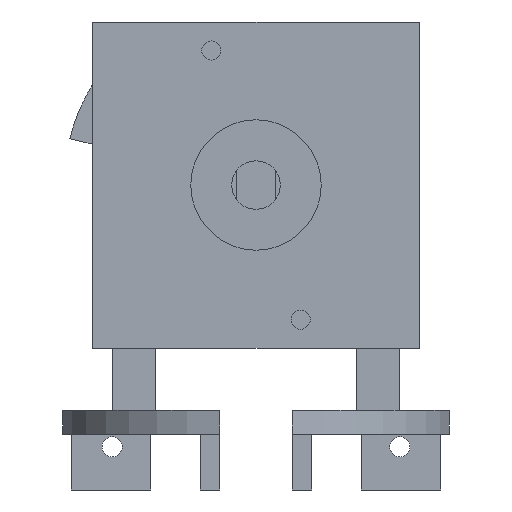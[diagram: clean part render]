
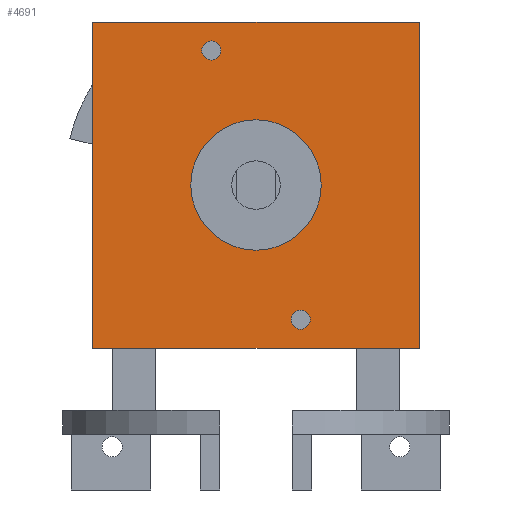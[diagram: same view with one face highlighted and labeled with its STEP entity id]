
A CAD part, front view. The second image highlights one B-rep face of the part: STEP entity #4691.
In plain terms, the highlighted planar face has unit normal (0, -1, 0).
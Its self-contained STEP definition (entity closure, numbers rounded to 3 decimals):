
#325 = PLANE('',#326);
#326 = AXIS2_PLACEMENT_3D('',#327,#328,#329);
#327 = CARTESIAN_POINT('',(-34.,-47.5,-34.));
#328 = DIRECTION('',(0.,0.,1.));
#329 = DIRECTION('',(1.,0.,0.));
#353 = PLANE('',#354);
#354 = AXIS2_PLACEMENT_3D('',#355,#356,#357);
#355 = CARTESIAN_POINT('',(-34.,-47.5,-34.));
#356 = DIRECTION('',(1.,0.,0.));
#357 = DIRECTION('',(0.,0.,1.));
#381 = PLANE('',#382);
#382 = AXIS2_PLACEMENT_3D('',#383,#384,#385);
#383 = CARTESIAN_POINT('',(-34.,-47.5,34.));
#384 = DIRECTION('',(0.,0.,1.));
#385 = DIRECTION('',(1.,0.,0.));
#407 = PLANE('',#408);
#408 = AXIS2_PLACEMENT_3D('',#409,#410,#411);
#409 = CARTESIAN_POINT('',(34.,-47.5,-34.));
#410 = DIRECTION('',(1.,0.,0.));
#411 = DIRECTION('',(0.,0.,1.));
#442 = CYLINDRICAL_SURFACE('',#443,13.6);
#443 = AXIS2_PLACEMENT_3D('',#444,#445,#446);
#444 = CARTESIAN_POINT('',(0.,-48.5,0.));
#445 = DIRECTION('',(0.,-1.,-0.));
#446 = DIRECTION('',(1.,0.,0.));
#4636 = EDGE_CURVE('',#4637,#4637,#4639,.T.);
#4637 = VERTEX_POINT('',#4638);
#4638 = CARTESIAN_POINT('',(13.6,-47.5,0.));
#4639 = SURFACE_CURVE('',#4640,(#4645,#4652),.PCURVE_S1.);
#4640 = CIRCLE('',#4641,13.6);
#4641 = AXIS2_PLACEMENT_3D('',#4642,#4643,#4644);
#4642 = CARTESIAN_POINT('',(0.,-47.5,0.));
#4643 = DIRECTION('',(0.,-1.,-0.));
#4644 = DIRECTION('',(1.,0.,0.));
#4645 = PCURVE('',#442,#4646);
#4646 = DEFINITIONAL_REPRESENTATION('',(#4647),#4651);
#4647 = LINE('',#4648,#4649);
#4648 = CARTESIAN_POINT('',(-6.283,-1.));
#4649 = VECTOR('',#4650,1.);
#4650 = DIRECTION('',(1.,-0.));
#4651 = ( GEOMETRIC_REPRESENTATION_CONTEXT(2) 
PARAMETRIC_REPRESENTATION_CONTEXT() REPRESENTATION_CONTEXT('2D SPACE',''
  ) );
#4652 = PCURVE('',#4653,#4658);
#4653 = PLANE('',#4654);
#4654 = AXIS2_PLACEMENT_3D('',#4655,#4656,#4657);
#4655 = CARTESIAN_POINT('',(-34.,-47.5,-34.));
#4656 = DIRECTION('',(0.,1.,0.));
#4657 = DIRECTION('',(0.,0.,1.));
#4658 = DEFINITIONAL_REPRESENTATION('',(#4659),#4667);
#4659 = ( BOUNDED_CURVE() B_SPLINE_CURVE(2,(#4660,#4661,#4662,#4663,
#4664,#4665,#4666),.UNSPECIFIED.,.T.,.F.) B_SPLINE_CURVE_WITH_KNOTS((1,2
    ,2,2,2,1),(-2.094,0.,2.094,4.189,
6.283,8.378),.UNSPECIFIED.) CURVE() 
GEOMETRIC_REPRESENTATION_ITEM() RATIONAL_B_SPLINE_CURVE((1.,0.5,1.,0.5,
1.,0.5,1.)) REPRESENTATION_ITEM('') );
#4660 = CARTESIAN_POINT('',(34.,47.6));
#4661 = CARTESIAN_POINT('',(57.556,47.6));
#4662 = CARTESIAN_POINT('',(45.778,27.2));
#4663 = CARTESIAN_POINT('',(34.,6.8));
#4664 = CARTESIAN_POINT('',(22.222,27.2));
#4665 = CARTESIAN_POINT('',(10.444,47.6));
#4666 = CARTESIAN_POINT('',(34.,47.6));
#4667 = ( GEOMETRIC_REPRESENTATION_CONTEXT(2) 
PARAMETRIC_REPRESENTATION_CONTEXT() REPRESENTATION_CONTEXT('2D SPACE',''
  ) );
#4691 = ADVANCED_FACE('',(#4692,#4786,#4821,#4856),#4653,.F.);
#4692 = FACE_BOUND('',#4693,.F.);
#4693 = EDGE_LOOP('',(#4694,#4719,#4742,#4765));
#4694 = ORIENTED_EDGE('',*,*,#4695,.F.);
#4695 = EDGE_CURVE('',#4696,#4698,#4700,.T.);
#4696 = VERTEX_POINT('',#4697);
#4697 = CARTESIAN_POINT('',(-34.,-47.5,-34.));
#4698 = VERTEX_POINT('',#4699);
#4699 = CARTESIAN_POINT('',(34.,-47.5,-34.));
#4700 = SURFACE_CURVE('',#4701,(#4705,#4712),.PCURVE_S1.);
#4701 = LINE('',#4702,#4703);
#4702 = CARTESIAN_POINT('',(-34.,-47.5,-34.));
#4703 = VECTOR('',#4704,1.);
#4704 = DIRECTION('',(1.,0.,0.));
#4705 = PCURVE('',#4653,#4706);
#4706 = DEFINITIONAL_REPRESENTATION('',(#4707),#4711);
#4707 = LINE('',#4708,#4709);
#4708 = CARTESIAN_POINT('',(0.,0.));
#4709 = VECTOR('',#4710,1.);
#4710 = DIRECTION('',(0.,1.));
#4711 = ( GEOMETRIC_REPRESENTATION_CONTEXT(2) 
PARAMETRIC_REPRESENTATION_CONTEXT() REPRESENTATION_CONTEXT('2D SPACE',''
  ) );
#4712 = PCURVE('',#325,#4713);
#4713 = DEFINITIONAL_REPRESENTATION('',(#4714),#4718);
#4714 = LINE('',#4715,#4716);
#4715 = CARTESIAN_POINT('',(0.,0.));
#4716 = VECTOR('',#4717,1.);
#4717 = DIRECTION('',(1.,0.));
#4718 = ( GEOMETRIC_REPRESENTATION_CONTEXT(2) 
PARAMETRIC_REPRESENTATION_CONTEXT() REPRESENTATION_CONTEXT('2D SPACE',''
  ) );
#4719 = ORIENTED_EDGE('',*,*,#4720,.T.);
#4720 = EDGE_CURVE('',#4696,#4721,#4723,.T.);
#4721 = VERTEX_POINT('',#4722);
#4722 = CARTESIAN_POINT('',(-34.,-47.5,34.));
#4723 = SURFACE_CURVE('',#4724,(#4728,#4735),.PCURVE_S1.);
#4724 = LINE('',#4725,#4726);
#4725 = CARTESIAN_POINT('',(-34.,-47.5,-34.));
#4726 = VECTOR('',#4727,1.);
#4727 = DIRECTION('',(0.,0.,1.));
#4728 = PCURVE('',#4653,#4729);
#4729 = DEFINITIONAL_REPRESENTATION('',(#4730),#4734);
#4730 = LINE('',#4731,#4732);
#4731 = CARTESIAN_POINT('',(0.,0.));
#4732 = VECTOR('',#4733,1.);
#4733 = DIRECTION('',(1.,0.));
#4734 = ( GEOMETRIC_REPRESENTATION_CONTEXT(2) 
PARAMETRIC_REPRESENTATION_CONTEXT() REPRESENTATION_CONTEXT('2D SPACE',''
  ) );
#4735 = PCURVE('',#353,#4736);
#4736 = DEFINITIONAL_REPRESENTATION('',(#4737),#4741);
#4737 = LINE('',#4738,#4739);
#4738 = CARTESIAN_POINT('',(0.,0.));
#4739 = VECTOR('',#4740,1.);
#4740 = DIRECTION('',(1.,0.));
#4741 = ( GEOMETRIC_REPRESENTATION_CONTEXT(2) 
PARAMETRIC_REPRESENTATION_CONTEXT() REPRESENTATION_CONTEXT('2D SPACE',''
  ) );
#4742 = ORIENTED_EDGE('',*,*,#4743,.T.);
#4743 = EDGE_CURVE('',#4721,#4744,#4746,.T.);
#4744 = VERTEX_POINT('',#4745);
#4745 = CARTESIAN_POINT('',(34.,-47.5,34.));
#4746 = SURFACE_CURVE('',#4747,(#4751,#4758),.PCURVE_S1.);
#4747 = LINE('',#4748,#4749);
#4748 = CARTESIAN_POINT('',(-34.,-47.5,34.));
#4749 = VECTOR('',#4750,1.);
#4750 = DIRECTION('',(1.,0.,0.));
#4751 = PCURVE('',#4653,#4752);
#4752 = DEFINITIONAL_REPRESENTATION('',(#4753),#4757);
#4753 = LINE('',#4754,#4755);
#4754 = CARTESIAN_POINT('',(68.,0.));
#4755 = VECTOR('',#4756,1.);
#4756 = DIRECTION('',(0.,1.));
#4757 = ( GEOMETRIC_REPRESENTATION_CONTEXT(2) 
PARAMETRIC_REPRESENTATION_CONTEXT() REPRESENTATION_CONTEXT('2D SPACE',''
  ) );
#4758 = PCURVE('',#381,#4759);
#4759 = DEFINITIONAL_REPRESENTATION('',(#4760),#4764);
#4760 = LINE('',#4761,#4762);
#4761 = CARTESIAN_POINT('',(0.,0.));
#4762 = VECTOR('',#4763,1.);
#4763 = DIRECTION('',(1.,0.));
#4764 = ( GEOMETRIC_REPRESENTATION_CONTEXT(2) 
PARAMETRIC_REPRESENTATION_CONTEXT() REPRESENTATION_CONTEXT('2D SPACE',''
  ) );
#4765 = ORIENTED_EDGE('',*,*,#4766,.F.);
#4766 = EDGE_CURVE('',#4698,#4744,#4767,.T.);
#4767 = SURFACE_CURVE('',#4768,(#4772,#4779),.PCURVE_S1.);
#4768 = LINE('',#4769,#4770);
#4769 = CARTESIAN_POINT('',(34.,-47.5,-34.));
#4770 = VECTOR('',#4771,1.);
#4771 = DIRECTION('',(0.,0.,1.));
#4772 = PCURVE('',#4653,#4773);
#4773 = DEFINITIONAL_REPRESENTATION('',(#4774),#4778);
#4774 = LINE('',#4775,#4776);
#4775 = CARTESIAN_POINT('',(0.,68.));
#4776 = VECTOR('',#4777,1.);
#4777 = DIRECTION('',(1.,0.));
#4778 = ( GEOMETRIC_REPRESENTATION_CONTEXT(2) 
PARAMETRIC_REPRESENTATION_CONTEXT() REPRESENTATION_CONTEXT('2D SPACE',''
  ) );
#4779 = PCURVE('',#407,#4780);
#4780 = DEFINITIONAL_REPRESENTATION('',(#4781),#4785);
#4781 = LINE('',#4782,#4783);
#4782 = CARTESIAN_POINT('',(0.,0.));
#4783 = VECTOR('',#4784,1.);
#4784 = DIRECTION('',(1.,0.));
#4785 = ( GEOMETRIC_REPRESENTATION_CONTEXT(2) 
PARAMETRIC_REPRESENTATION_CONTEXT() REPRESENTATION_CONTEXT('2D SPACE',''
  ) );
#4786 = FACE_BOUND('',#4787,.F.);
#4787 = EDGE_LOOP('',(#4788));
#4788 = ORIENTED_EDGE('',*,*,#4789,.T.);
#4789 = EDGE_CURVE('',#4790,#4790,#4792,.T.);
#4790 = VERTEX_POINT('',#4791);
#4791 = CARTESIAN_POINT('',(-7.312,-47.5,28.065));
#4792 = SURFACE_CURVE('',#4793,(#4798,#4809),.PCURVE_S1.);
#4793 = CIRCLE('',#4794,2.);
#4794 = AXIS2_PLACEMENT_3D('',#4795,#4796,#4797);
#4795 = CARTESIAN_POINT('',(-9.312,-47.5,28.065));
#4796 = DIRECTION('',(0.,-1.,-0.));
#4797 = DIRECTION('',(1.,0.,0.));
#4798 = PCURVE('',#4653,#4799);
#4799 = DEFINITIONAL_REPRESENTATION('',(#4800),#4808);
#4800 = ( BOUNDED_CURVE() B_SPLINE_CURVE(2,(#4801,#4802,#4803,#4804,
#4805,#4806,#4807),.UNSPECIFIED.,.T.,.F.) B_SPLINE_CURVE_WITH_KNOTS((1,2
    ,2,2,2,1),(-2.094,0.,2.094,4.189,
6.283,8.378),.UNSPECIFIED.) CURVE() 
GEOMETRIC_REPRESENTATION_ITEM() RATIONAL_B_SPLINE_CURVE((1.,0.5,1.,0.5,
1.,0.5,1.)) REPRESENTATION_ITEM('') );
#4801 = CARTESIAN_POINT('',(62.065,26.688));
#4802 = CARTESIAN_POINT('',(65.529,26.688));
#4803 = CARTESIAN_POINT('',(63.797,23.688));
#4804 = CARTESIAN_POINT('',(62.065,20.688));
#4805 = CARTESIAN_POINT('',(60.333,23.688));
#4806 = CARTESIAN_POINT('',(58.601,26.688));
#4807 = CARTESIAN_POINT('',(62.065,26.688));
#4808 = ( GEOMETRIC_REPRESENTATION_CONTEXT(2) 
PARAMETRIC_REPRESENTATION_CONTEXT() REPRESENTATION_CONTEXT('2D SPACE',''
  ) );
#4809 = PCURVE('',#4810,#4815);
#4810 = CYLINDRICAL_SURFACE('',#4811,2.);
#4811 = AXIS2_PLACEMENT_3D('',#4812,#4813,#4814);
#4812 = CARTESIAN_POINT('',(-9.312,-48.5,28.065));
#4813 = DIRECTION('',(0.,-1.,-0.));
#4814 = DIRECTION('',(1.,0.,0.));
#4815 = DEFINITIONAL_REPRESENTATION('',(#4816),#4820);
#4816 = LINE('',#4817,#4818);
#4817 = CARTESIAN_POINT('',(-6.283,-1.));
#4818 = VECTOR('',#4819,1.);
#4819 = DIRECTION('',(1.,-0.));
#4820 = ( GEOMETRIC_REPRESENTATION_CONTEXT(2) 
PARAMETRIC_REPRESENTATION_CONTEXT() REPRESENTATION_CONTEXT('2D SPACE',''
  ) );
#4821 = FACE_BOUND('',#4822,.F.);
#4822 = EDGE_LOOP('',(#4823));
#4823 = ORIENTED_EDGE('',*,*,#4824,.T.);
#4824 = EDGE_CURVE('',#4825,#4825,#4827,.T.);
#4825 = VERTEX_POINT('',#4826);
#4826 = CARTESIAN_POINT('',(11.312,-47.5,-28.065));
#4827 = SURFACE_CURVE('',#4828,(#4833,#4844),.PCURVE_S1.);
#4828 = CIRCLE('',#4829,2.);
#4829 = AXIS2_PLACEMENT_3D('',#4830,#4831,#4832);
#4830 = CARTESIAN_POINT('',(9.312,-47.5,-28.065));
#4831 = DIRECTION('',(0.,-1.,-0.));
#4832 = DIRECTION('',(1.,0.,0.));
#4833 = PCURVE('',#4653,#4834);
#4834 = DEFINITIONAL_REPRESENTATION('',(#4835),#4843);
#4835 = ( BOUNDED_CURVE() B_SPLINE_CURVE(2,(#4836,#4837,#4838,#4839,
#4840,#4841,#4842),.UNSPECIFIED.,.T.,.F.) B_SPLINE_CURVE_WITH_KNOTS((1,2
    ,2,2,2,1),(-2.094,0.,2.094,4.189,
6.283,8.378),.UNSPECIFIED.) CURVE() 
GEOMETRIC_REPRESENTATION_ITEM() RATIONAL_B_SPLINE_CURVE((1.,0.5,1.,0.5,
1.,0.5,1.)) REPRESENTATION_ITEM('') );
#4836 = CARTESIAN_POINT('',(5.935,45.312));
#4837 = CARTESIAN_POINT('',(9.399,45.312));
#4838 = CARTESIAN_POINT('',(7.667,42.312));
#4839 = CARTESIAN_POINT('',(5.935,39.312));
#4840 = CARTESIAN_POINT('',(4.203,42.312));
#4841 = CARTESIAN_POINT('',(2.471,45.312));
#4842 = CARTESIAN_POINT('',(5.935,45.312));
#4843 = ( GEOMETRIC_REPRESENTATION_CONTEXT(2) 
PARAMETRIC_REPRESENTATION_CONTEXT() REPRESENTATION_CONTEXT('2D SPACE',''
  ) );
#4844 = PCURVE('',#4845,#4850);
#4845 = CYLINDRICAL_SURFACE('',#4846,2.);
#4846 = AXIS2_PLACEMENT_3D('',#4847,#4848,#4849);
#4847 = CARTESIAN_POINT('',(9.312,-48.5,-28.065));
#4848 = DIRECTION('',(0.,-1.,-0.));
#4849 = DIRECTION('',(1.,0.,0.));
#4850 = DEFINITIONAL_REPRESENTATION('',(#4851),#4855);
#4851 = LINE('',#4852,#4853);
#4852 = CARTESIAN_POINT('',(-6.283,-1.));
#4853 = VECTOR('',#4854,1.);
#4854 = DIRECTION('',(1.,-0.));
#4855 = ( GEOMETRIC_REPRESENTATION_CONTEXT(2) 
PARAMETRIC_REPRESENTATION_CONTEXT() REPRESENTATION_CONTEXT('2D SPACE',''
  ) );
#4856 = FACE_BOUND('',#4857,.F.);
#4857 = EDGE_LOOP('',(#4858));
#4858 = ORIENTED_EDGE('',*,*,#4636,.T.);
